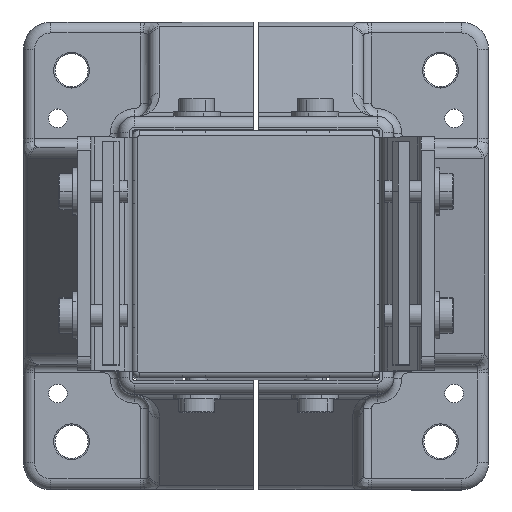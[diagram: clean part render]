
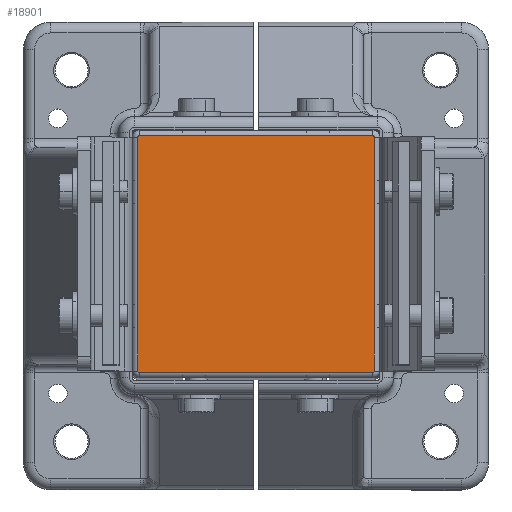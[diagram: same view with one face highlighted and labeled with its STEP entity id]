
A CAD part, top view. The second image highlights one B-rep face of the part: STEP entity #18901.
In plain terms, the highlighted planar face has unit normal (0, 0, 1) as drawn and (0, -1, 0) by its records, which use the part's own axes.
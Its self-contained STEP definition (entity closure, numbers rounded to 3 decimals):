
#269 = CARTESIAN_POINT ( 'NONE',  ( -42.5, 0., -43. ) ) ;
#342 = DIRECTION ( 'NONE',  ( 0., 1., 0. ) ) ;
#1387 = CIRCLE ( 'NONE', #13346, 0.5 ) ;
#1805 = CARTESIAN_POINT ( 'NONE',  ( 43., 0., 45. ) ) ;
#1892 = DIRECTION ( 'NONE',  ( -1., 0., 0. ) ) ;
#1925 = CARTESIAN_POINT ( 'NONE',  ( -43., 0., -42.5 ) ) ;
#2397 = CARTESIAN_POINT ( 'NONE',  ( -45., 0., -45. ) ) ;
#3062 = VECTOR ( 'NONE', #16340, 1000. ) ;
#3257 = DIRECTION ( 'NONE',  ( 0., 0., -1. ) ) ;
#3405 = DIRECTION ( 'NONE',  ( 0., 1., 0. ) ) ;
#3477 = EDGE_CURVE ( 'NONE', #10230, #9765, #14237, .T. ) ;
#3972 = CIRCLE ( 'NONE', #4279, 0.5 ) ;
#4279 = AXIS2_PLACEMENT_3D ( 'NONE', #8207, #3405, #3257 ) ;
#4471 = VECTOR ( 'NONE', #4824, 1000. ) ;
#4736 = ORIENTED_EDGE ( 'NONE', *, *, #13209, .T. ) ;
#4824 = DIRECTION ( 'NONE',  ( 0., 0., -1. ) ) ;
#5017 = FACE_OUTER_BOUND ( 'NONE', #16406, .T. ) ;
#5499 = CARTESIAN_POINT ( 'NONE',  ( -43., 0., 42.5 ) ) ;
#5594 = VECTOR ( 'NONE', #1892, 1000. ) ;
#6259 = EDGE_CURVE ( 'NONE', #7182, #14103, #14629, .T. ) ;
#6296 = DIRECTION ( 'NONE',  ( 0., 0., -1. ) ) ;
#6695 = CARTESIAN_POINT ( 'NONE',  ( 42.5, 0., 43. ) ) ;
#6866 = EDGE_CURVE ( 'NONE', #16445, #11979, #10801, .T. ) ;
#7182 = VERTEX_POINT ( 'NONE', #5499 ) ;
#7887 = EDGE_CURVE ( 'NONE', #16445, #9105, #3972, .T. ) ;
#7888 = CARTESIAN_POINT ( 'NONE',  ( 45., 0., -43. ) ) ;
#8102 = VERTEX_POINT ( 'NONE', #16807 ) ;
#8207 = CARTESIAN_POINT ( 'NONE',  ( -42.5, 0., -42.5 ) ) ;
#8407 = ORIENTED_EDGE ( 'NONE', *, *, #6259, .F. ) ;
#8529 = LINE ( 'NONE', #11251, #4471 ) ;
#9105 = VERTEX_POINT ( 'NONE', #1925 ) ;
#9485 = CARTESIAN_POINT ( 'NONE',  ( 42.5, 0., -43. ) ) ;
#9765 = VERTEX_POINT ( 'NONE', #9774 ) ;
#9774 = CARTESIAN_POINT ( 'NONE',  ( 43., 0., 42.5 ) ) ;
#10230 = VERTEX_POINT ( 'NONE', #6695 ) ;
#10239 = EDGE_CURVE ( 'NONE', #10230, #14103, #13662, .T. ) ;
#10435 = DIRECTION ( 'NONE',  ( 0., 0., -1. ) ) ;
#10641 = CARTESIAN_POINT ( 'NONE',  ( 42.5, 0., 42.5 ) ) ;
#10801 = LINE ( 'NONE', #7888, #19880 ) ;
#11251 = CARTESIAN_POINT ( 'NONE',  ( -43., 0., -45. ) ) ;
#11545 = CARTESIAN_POINT ( 'NONE',  ( -45., 0., 43. ) ) ;
#11979 = VERTEX_POINT ( 'NONE', #9485 ) ;
#12200 = DIRECTION ( 'NONE',  ( 0., 1., 0. ) ) ;
#12550 = AXIS2_PLACEMENT_3D ( 'NONE', #10641, #12200, #17070 ) ;
#12830 = ORIENTED_EDGE ( 'NONE', *, *, #7887, .F. ) ;
#13209 = EDGE_CURVE ( 'NONE', #7182, #9105, #8529, .T. ) ;
#13342 = CARTESIAN_POINT ( 'NONE',  ( -42.5, 0., 43. ) ) ;
#13346 = AXIS2_PLACEMENT_3D ( 'NONE', #18125, #342, #17914 ) ;
#13662 = LINE ( 'NONE', #11545, #5594 ) ;
#14103 = VERTEX_POINT ( 'NONE', #13342 ) ;
#14237 = CIRCLE ( 'NONE', #12550, 0.5 ) ;
#14510 = DIRECTION ( 'NONE',  ( 1., 0., 0. ) ) ;
#14629 = CIRCLE ( 'NONE', #18272, 0.5 ) ;
#15076 = EDGE_CURVE ( 'NONE', #8102, #11979, #1387, .T. ) ;
#15883 = CARTESIAN_POINT ( 'NONE',  ( -42.5, 0., 42.5 ) ) ;
#16025 = DIRECTION ( 'NONE',  ( 0., 1., 0. ) ) ;
#16340 = DIRECTION ( 'NONE',  ( 0., 0., 1. ) ) ;
#16406 = EDGE_LOOP ( 'NONE', ( #16761, #18185, #8407, #4736, #12830, #17694, #18213, #18547 ) ) ;
#16445 = VERTEX_POINT ( 'NONE', #269 ) ;
#16548 = AXIS2_PLACEMENT_3D ( 'NONE', #2397, #18612, #10435 ) ;
#16761 = ORIENTED_EDGE ( 'NONE', *, *, #3477, .F. ) ;
#16807 = CARTESIAN_POINT ( 'NONE',  ( 43., 0., -42.5 ) ) ;
#17070 = DIRECTION ( 'NONE',  ( 0., 0., -1. ) ) ;
#17322 = EDGE_CURVE ( 'NONE', #8102, #9765, #17458, .T. ) ;
#17458 = LINE ( 'NONE', #1805, #3062 ) ;
#17694 = ORIENTED_EDGE ( 'NONE', *, *, #6866, .T. ) ;
#17914 = DIRECTION ( 'NONE',  ( 0., 0., -1. ) ) ;
#18125 = CARTESIAN_POINT ( 'NONE',  ( 42.5, 0., -42.5 ) ) ;
#18185 = ORIENTED_EDGE ( 'NONE', *, *, #10239, .T. ) ;
#18213 = ORIENTED_EDGE ( 'NONE', *, *, #15076, .F. ) ;
#18272 = AXIS2_PLACEMENT_3D ( 'NONE', #15883, #16025, #6296 ) ;
#18547 = ORIENTED_EDGE ( 'NONE', *, *, #17322, .T. ) ;
#18612 = DIRECTION ( 'NONE',  ( 0., -1., 0. ) ) ;
#18901 = ADVANCED_FACE ( 'NONE', ( #5017 ), #20078, .T. ) ;
#19880 = VECTOR ( 'NONE', #14510, 1000. ) ;
#20078 = PLANE ( 'NONE',  #16548 ) ;
